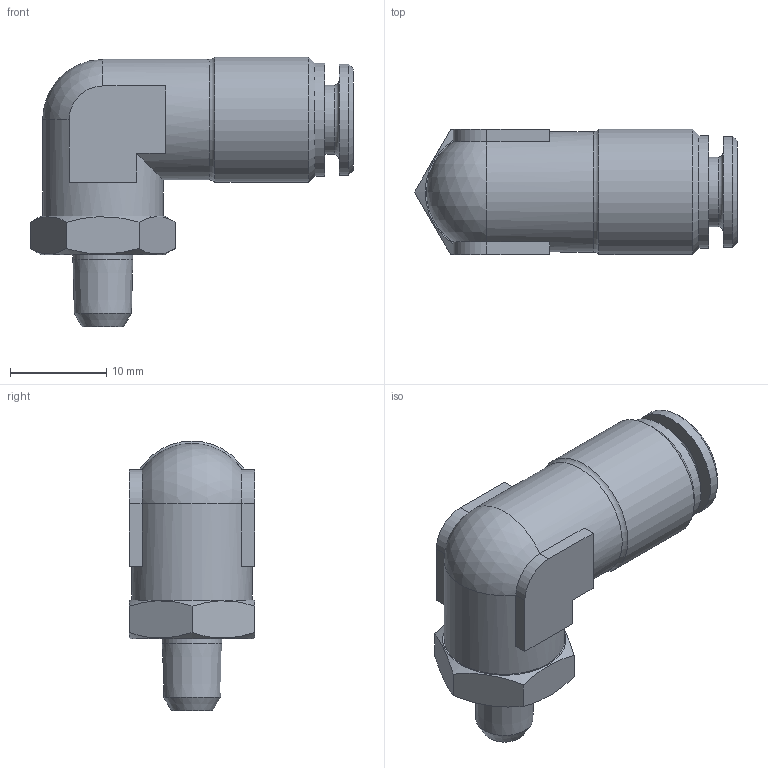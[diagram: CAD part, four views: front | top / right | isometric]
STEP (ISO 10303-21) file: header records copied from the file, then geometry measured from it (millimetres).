
FILE_DESCRIPTION(/* description */ (''),/* implementation_level */ '2;1');
FILE_NAME(/* name */ 'H220606_HDS022K_6_M6_08.05.17',/* time_stamp */ '2017-05-08T12:04:15+02:00',/* author */ (''),/* organization */ (''),/* preprocessor_version */ 'ST-DEVELOPER v16.5',/* originating_system */ 'HiCAD 2016 2102.1 Build 498',/* authorisation */ '');
FILE_SCHEMA (('AUTOMOTIVE_DESIGN { 1 0 10303 214 1 1 1 1 }'));
Length unit declared in the file: millimetre
Products named in the file (4): Root; DR6-C_HDX_25.07.16; 540102-1; RIVOLUZIONE_0
Assembly tree (3 placements, depth 2):
  Root
    DR6-C_HDX_25.07.16
    540102-1
    RIVOLUZIONE_0
Bounding box: 33.51 x 13 x 28 mm (x, y, z)
Volume: 3847.9 mm3; surface area: 4120.7 mm2
Topology: 3 solids, 3 shells, 77 faces, 165 edges, 100 vertices
Faces by surface type: plane 33, cylinder 21, cone 17, torus 5, sphere 1
Full cylindrical faces by diameter (mm): 3 x1, 4 x1, 6 x1, 6.2 x1, 6.219 x1, 6.3 x1, 7.2 x1, 9 x2, 9.9 x1, 10 x1, 10.1 x2, 10.3 x1, 11.5 x1, 11.7 x1, 12.5 x2, 13 x1
Entity records: 3207 total; most frequent: CARTESIAN_POINT 461, DIRECTION 354, PRESENTATION_STYLE_ASSIGNMENT 233, COLOUR_RGB 232, DRAUGHTING_PRE_DEFINED_CURVE_FONT 230, CURVE_STYLE 230, OVER_RIDING_STYLED_ITEM 230, ORIENTED_EDGE 230
